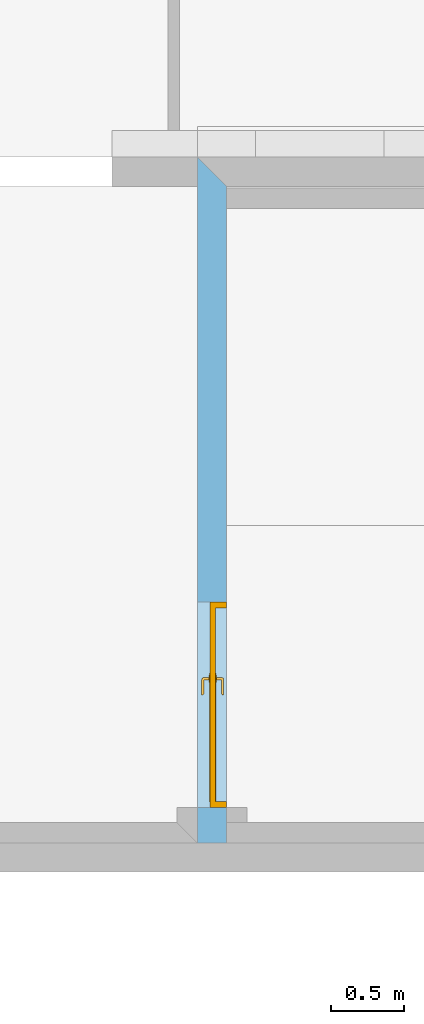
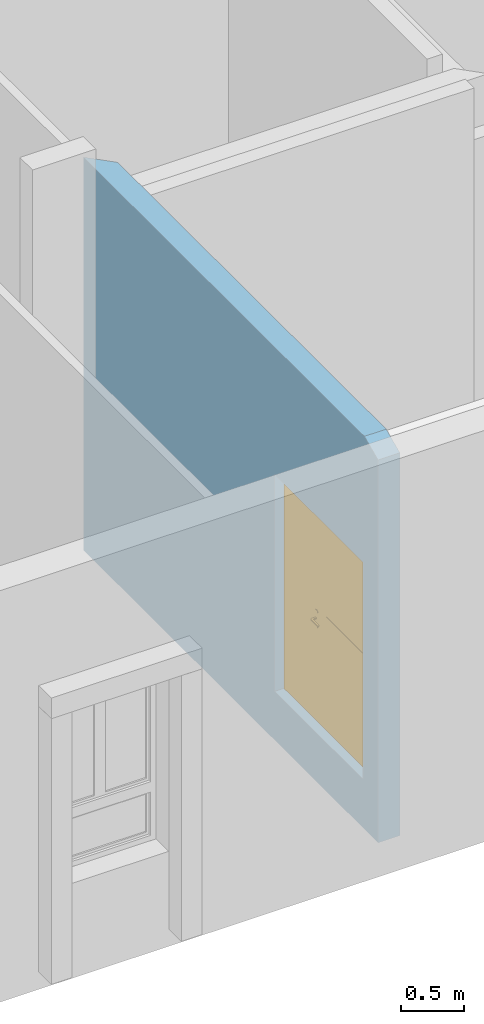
# One storey, part 17 of 34: 1 door, 1 opening, plus 1 element that does not belong to this part.
"""IFC2X3 building model written with IfcOpenShell, lengths in metres."""

from ifc_helpers import new_model, entity, si_unit, converted_unit, derived_unit, money_unit, direction, frame, origin_with_axes, origin_2d_with_axis, place, context, subcontext, project, spatial, polyline, rectangle, outline, extrude, clip, halfspace, faceted_brep, material, layer, layer_set, layer_usage, type_object, element, fill, save


model = new_model("IFC2X3")

# Units and contexts
model_context = context("Model", 3, precision=1e-05, world=origin_with_axes(), true_north=direction((0.0, 1.0)))
body_context = subcontext(model_context, "Body", "Model", "MODEL_VIEW")
ifc_project = project(units=[si_unit("LENGTHUNIT", "METRE"), si_unit("AREAUNIT", "SQUARE_METRE"), si_unit("VOLUMEUNIT", "CUBIC_METRE"), converted_unit("PLANEANGLEUNIT", "DEGREE", entity("IfcPlaneAngleMeasure", 0.0174532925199), si_unit("PLANEANGLEUNIT", "RADIAN"), dimensions=[0, 0, 0, 0, 0, 0, 0]), money_unit("CHF"), converted_unit("TIMEUNIT", "Year", entity("IfcTimeMeasure", 31556926.0), si_unit("TIMEUNIT", "SECOND"), dimensions=[0, 0, 1, 0, 0, 0, 0]), si_unit("MASSUNIT", "GRAM", prefix="KILO"), si_unit("THERMODYNAMICTEMPERATUREUNIT", "DEGREE_CELSIUS"), si_unit("LUMINOUSINTENSITYUNIT", "LUMEN"), si_unit("ENERGYUNIT", "JOULE", prefix="MEGA"), derived_unit("THERMALCONDUCTANCEUNIT", [(si_unit("POWERUNIT", "WATT"), 1), (si_unit("LENGTHUNIT", "METRE"), -1), (si_unit("THERMODYNAMICTEMPERATUREUNIT", "KELVIN"), -1)]), derived_unit("SPECIFICHEATCAPACITYUNIT", [(si_unit("ENERGYUNIT", "JOULE"), 1), (si_unit("MASSUNIT", "GRAM", prefix="KILO"), -1), (si_unit("THERMODYNAMICTEMPERATUREUNIT", "KELVIN"), -1)]), derived_unit("MASSDENSITYUNIT", [(si_unit("MASSUNIT", "GRAM", prefix="KILO"), 1), (si_unit("VOLUMEUNIT", "CUBIC_METRE"), -1)])], contexts=[model_context])

# Site, building, storey
site_placement = place(None, origin_with_axes())
site = spatial("IfcSite", under=ifc_project, at=site_placement, Name="Site", CompositionType="ELEMENT")
building_placement = place(site_placement, origin_with_axes())
building = spatial("IfcBuilding", under=site, at=building_placement, Name="Bâtiment", CompositionType="ELEMENT")
storey_placement = place(building_placement, origin_with_axes())
storey = spatial("IfcBuildingStorey", under=building, at=storey_placement, Name="RDC", CompositionType="ELEMENT", Elevation=-5.32907e-15)

# Wall, opening, door
ifc_material = material(Name="Diagonales 1167258944")
ifc_layer = layer(ifc_material, 0.2, ventilated="UNKNOWN")
ifc_layer_set = layer_set([ifc_layer], Name="Diagonales 1167258944 0.2")
ifc_layer_usage = layer_usage(ifc_layer_set, "AXIS2", "NEGATIVE", 0.0)
wall_type = type_object("IfcWallType", Name="Diagonales 1167258944 200", PredefinedType="NOTDEFINED")
wall_placement = place(storey_placement, frame((1692.16729001, 177.38004191, 0.0), z_axis=(0.0, 0.0, 1.0), x_axis=(0.0, 1.0, 0.0)))
wall = element("IfcWallStandardCase", 1, at=wall_placement, inside=storey, type_object=wall_type, material=ifc_layer_usage, Name="Mur-009", context=body_context, shape_type="Clipping", body=[
    clip(extrude(outline(polyline([(0.2, -0.2), (4.67, -0.2), (4.87, 0.0), (0.2, 0.0), (0.2, -0.2)])), origin_with_axes(), (0.0, 0.0, 1.0), 3.8), halfspace(frame((-1.35194463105, 0.0, 3.00400550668), z_axis=(0.410400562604, 0.0, -0.911905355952), x_axis=(0.0, 1.0, 0.0)), True)),
])
opening_placement = place(wall_placement, frame((1.14, 0.0, 0.47), z_axis=(0.0, 0.0, 1.0), x_axis=(1.0, 0.0, 0.0)))
opening = element("IfcOpeningElement", 2, at=opening_placement, cuts=wall, Name="Por-006", context=body_context, shape_type="SweptSolid", body=[
    extrude(rectangle(XDim=1.4, YDim=2.1, at=origin_2d_with_axis()), frame((0.0, 0.2, 1.05), z_axis=(0.0, 1.0, 0.0), x_axis=(-1.0, 0.0, 0.0)), (0.0, 0.0, -1.0), 0.6),
])
door_style = type_object("IfcDoorStyle", Name="Porte double asymétrique 25", ConstructionType="NOTDEFINED", OperationType="DOUBLE_DOOR_SINGLE_SWING", ParameterTakesPrecedence=False, Sizeable=False)
door_placement = place(opening_placement, frame((-0.7, 0.0, 0.0), z_axis=(0.0, 0.0, 1.0), x_axis=(1.0, 0.0, 0.0)))
door = element("IfcDoor", 3, at=door_placement, inside=storey, type_object=door_style, Name="Por-006", OverallHeight=2.1, OverallWidth=1.4, context=body_context, shape_type="Brep", body=[
    faceted_brep([(1.36, -0.125, 0.0), (1.36, -0.2, 0.0), (1.36, -0.2, 2.06), (1.36, -0.125, 2.06), (1.372, -0.125, 0.0), (1.372, -0.085, 0.0), (1.4, -0.085, 0.0), (1.4, -0.2, 0.0), (1.4, -0.2, 2.06), (1.372, -0.125, 2.06), (1.4, -0.085, 2.06), (1.372, -0.085, 2.06)], [[[0, 1, 2, 3]], [[4, 5, 6, 7, 1, 0]], [[1, 7, 8, 2]], [[9, 3, 2, 8, 10, 11]], [[9, 4, 0, 3]], [[11, 5, 4, 9]], [[11, 10, 6, 5]], [[6, 10, 8, 7]]]),
    faceted_brep([(0.028, -0.125, 2.06), (0.028, -0.085, 2.06), (0.0, -0.085, 2.06), (0.0, -0.2, 2.06), (0.04, -0.2, 2.06), (0.04, -0.125, 2.06), (0.028, -0.125, 0.0), (0.028, -0.085, 0.0), (0.0, -0.085, 0.0), (0.0, -0.2, 0.0), (0.04, -0.2, 0.0), (0.04, -0.125, 0.0)], [[[0, 1, 2, 3, 4, 5]], [[0, 6, 7, 1]], [[7, 8, 2, 1]], [[2, 8, 9, 3]], [[3, 9, 10, 4]], [[5, 4, 10, 11]], [[5, 11, 6, 0]], [[6, 11, 10, 9, 8, 7]]]),
    faceted_brep([(1.372, -0.085, 2.072), (0.028, -0.085, 2.072), (0.028, -0.085, 2.06), (0.0, -0.085, 2.06), (0.0, -0.085, 2.1), (1.4, -0.085, 2.1), (1.4, -0.085, 2.06), (1.372, -0.085, 2.06), (1.372, -0.125, 2.072), (0.028, -0.125, 2.072), (0.028, -0.125, 2.06), (0.04, -0.125, 2.06), (0.04, -0.2, 2.06), (0.0, -0.2, 2.06), (0.0, -0.2, 2.1), (1.4, -0.2, 2.1), (1.4, -0.2, 2.06), (1.372, -0.125, 2.06), (1.36, -0.2, 2.06), (1.36, -0.125, 2.06)], [[[0, 1, 2, 3, 4, 5, 6, 7]], [[0, 8, 9, 1]], [[1, 9, 10, 2]], [[10, 11, 12, 13, 3, 2]], [[4, 3, 13, 14]], [[5, 4, 14, 15]], [[6, 5, 15, 16]], [[17, 7, 6, 16, 18, 19]], [[7, 17, 8, 0]], [[10, 9, 8, 17, 19, 11]], [[19, 18, 12, 11]], [[12, 18, 16, 15, 14, 13]]]),
    faceted_brep([(0.903, -0.125, 0.93), (0.903, -0.13, 0.93), (0.901096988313, -0.13, 0.920432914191), (0.901096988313, -0.125, 0.920432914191), (0.903, -0.125, 1.055), (0.903, -0.13, 1.055), (0.901096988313, -0.13, 1.06456708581), (0.89567766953, -0.13, 1.07267766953), (0.887567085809, -0.13, 1.07809698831), (0.878, -0.13, 1.08), (0.868432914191, -0.13, 1.07809698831), (0.86032233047, -0.13, 1.07267766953), (0.854903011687, -0.13, 1.06456708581), (0.853, -0.13, 1.055), (0.853, -0.13, 0.93), (0.854903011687, -0.13, 0.920432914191), (0.86032233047, -0.13, 0.91232233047), (0.868432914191, -0.13, 0.906903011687), (0.878, -0.13, 0.905), (0.887567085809, -0.13, 0.906903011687), (0.89567766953, -0.13, 0.91232233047), (0.89567766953, -0.125, 0.91232233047), (0.887567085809, -0.125, 0.906903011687), (0.878, -0.125, 0.905), (0.868432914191, -0.125, 0.906903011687), (0.86032233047, -0.125, 0.91232233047), (0.854903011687, -0.125, 0.920432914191), (0.853, -0.125, 0.93), (0.853, -0.125, 1.055), (0.854903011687, -0.125, 1.06456708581), (0.86032233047, -0.125, 1.07267766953), (0.868432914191, -0.125, 1.07809698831), (0.878, -0.125, 1.08), (0.887567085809, -0.125, 1.07809698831), (0.89567766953, -0.125, 1.07267766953), (0.901096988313, -0.125, 1.06456708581)], [[[0, 1, 2, 3]], [[4, 5, 1, 0]], [[1, 5, 6, 7, 8, 9, 10, 11, 12, 13, 14, 15, 16, 17, 18, 19, 20, 2]], [[3, 2, 20, 21]], [[0, 3, 21, 22, 23, 24, 25, 26, 27, 28, 29, 30, 31, 32, 33, 34, 35, 4]], [[35, 6, 5, 4]], [[34, 7, 6, 35]], [[33, 8, 7, 34]], [[32, 9, 8, 33]], [[31, 10, 9, 32]], [[30, 11, 10, 31]], [[29, 12, 11, 30]], [[28, 13, 12, 29]], [[27, 14, 13, 28]], [[26, 15, 14, 27]], [[25, 16, 15, 26]], [[24, 17, 16, 25]], [[23, 18, 17, 24]], [[22, 19, 18, 23]], [[21, 20, 19, 22]]]),
    faceted_brep([(0.8705, -0.13, 1.005), (0.8705, -0.13, 0.995), (0.8705, -0.16, 0.995), (0.8705, -0.16, 1.005), (0.8855, -0.13, 1.005), (0.8855, -0.13, 0.995), (0.8855, -0.167, 0.995), (0.884510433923, -0.171974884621, 0.995), (0.881692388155, -0.176192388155, 0.995), (0.877474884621, -0.179010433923, 0.995), (0.8725, -0.18, 0.995), (0.7655, -0.18, 0.995), (0.7655, -0.178, 0.995), (0.766489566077, -0.173025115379, 0.995), (0.769307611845, -0.168807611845, 0.995), (0.773525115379, -0.165989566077, 0.995), (0.7785, -0.165, 0.995), (0.8655, -0.165, 0.995), (0.867413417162, -0.164619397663, 0.995), (0.869035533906, -0.163535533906, 0.995), (0.870119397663, -0.161913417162, 0.995), (0.870119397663, -0.161913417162, 1.005), (0.869035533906, -0.163535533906, 1.005), (0.867413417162, -0.164619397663, 1.005), (0.8655, -0.165, 1.005), (0.7785, -0.165, 1.005), (0.773525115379, -0.165989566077, 1.005), (0.769307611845, -0.168807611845, 1.005), (0.766489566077, -0.173025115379, 1.005), (0.7655, -0.178, 1.005), (0.7655, -0.18, 1.005), (0.8725, -0.18, 1.005), (0.877474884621, -0.179010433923, 1.005), (0.881692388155, -0.176192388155, 1.005), (0.884510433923, -0.171974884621, 1.005), (0.8855, -0.167, 1.005)], [[[0, 1, 2, 3]], [[4, 5, 1, 0]], [[1, 5, 6, 7, 8, 9, 10, 11, 12, 13, 14, 15, 16, 17, 18, 19, 20, 2]], [[3, 2, 20, 21]], [[0, 3, 21, 22, 23, 24, 25, 26, 27, 28, 29, 30, 31, 32, 33, 34, 35, 4]], [[35, 6, 5, 4]], [[34, 7, 6, 35]], [[33, 8, 7, 34]], [[32, 9, 8, 33]], [[31, 10, 9, 32]], [[30, 11, 10, 31]], [[29, 12, 11, 30]], [[28, 13, 12, 29]], [[27, 14, 13, 28]], [[26, 15, 14, 27]], [[25, 16, 15, 26]], [[24, 17, 16, 25]], [[23, 18, 17, 24]], [[22, 19, 18, 23]], [[21, 20, 19, 22]]]),
    faceted_brep([(0.903, -0.085, 0.93), (0.901096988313, -0.085, 0.920432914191), (0.901096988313, -0.08, 0.920432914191), (0.903, -0.08, 0.93), (0.903, -0.085, 1.055), (0.901096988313, -0.085, 1.06456708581), (0.89567766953, -0.085, 1.07267766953), (0.887567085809, -0.085, 1.07809698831), (0.878, -0.085, 1.08), (0.868432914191, -0.085, 1.07809698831), (0.86032233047, -0.085, 1.07267766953), (0.854903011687, -0.085, 1.06456708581), (0.853, -0.085, 1.055), (0.853, -0.085, 0.93), (0.854903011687, -0.085, 0.920432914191), (0.86032233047, -0.085, 0.91232233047), (0.868432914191, -0.085, 0.906903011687), (0.878, -0.085, 0.905), (0.887567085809, -0.085, 0.906903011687), (0.89567766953, -0.085, 0.91232233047), (0.89567766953, -0.08, 0.91232233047), (0.887567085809, -0.08, 0.906903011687), (0.878, -0.08, 0.905), (0.868432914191, -0.08, 0.906903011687), (0.86032233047, -0.08, 0.91232233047), (0.854903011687, -0.08, 0.920432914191), (0.853, -0.08, 0.93), (0.853, -0.08, 1.055), (0.854903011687, -0.08, 1.06456708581), (0.86032233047, -0.08, 1.07267766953), (0.868432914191, -0.08, 1.07809698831), (0.878, -0.08, 1.08), (0.887567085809, -0.08, 1.07809698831), (0.89567766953, -0.08, 1.07267766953), (0.901096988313, -0.08, 1.06456708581), (0.903, -0.08, 1.055)], [[[0, 1, 2, 3]], [[0, 4, 5, 6, 7, 8, 9, 10, 11, 12, 13, 14, 15, 16, 17, 18, 19, 1]], [[1, 19, 20, 2]], [[3, 2, 20, 21, 22, 23, 24, 25, 26, 27, 28, 29, 30, 31, 32, 33, 34, 35]], [[4, 0, 3, 35]], [[5, 4, 35, 34]], [[6, 5, 34, 33]], [[7, 6, 33, 32]], [[8, 7, 32, 31]], [[9, 8, 31, 30]], [[10, 9, 30, 29]], [[11, 10, 29, 28]], [[12, 11, 28, 27]], [[13, 12, 27, 26]], [[14, 13, 26, 25]], [[15, 14, 25, 24]], [[16, 15, 24, 23]], [[17, 16, 23, 22]], [[18, 17, 22, 21]], [[19, 18, 21, 20]]]),
    faceted_brep([(0.8705, -0.08, 1.005), (0.8705, -0.05, 1.005), (0.8705, -0.05, 0.995), (0.8705, -0.08, 0.995), (0.8855, -0.08, 1.005), (0.8855, -0.043, 1.005), (0.884510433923, -0.0380251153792, 1.005), (0.881692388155, -0.0338076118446, 1.005), (0.877474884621, -0.0309895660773, 1.005), (0.8725, -0.03, 1.005), (0.7655, -0.03, 1.005), (0.7655, -0.032, 1.005), (0.766489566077, -0.0369748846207, 1.005), (0.769307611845, -0.0411923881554, 1.005), (0.773525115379, -0.0440104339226, 1.005), (0.7785, -0.045, 1.005), (0.8655, -0.045, 1.005), (0.867413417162, -0.0453806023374, 1.005), (0.869035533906, -0.0464644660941, 1.005), (0.870119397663, -0.0480865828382, 1.005), (0.870119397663, -0.0480865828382, 0.995), (0.869035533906, -0.0464644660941, 0.995), (0.867413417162, -0.0453806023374, 0.995), (0.8655, -0.045, 0.995), (0.7785, -0.045, 0.995), (0.773525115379, -0.0440104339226, 0.995), (0.769307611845, -0.0411923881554, 0.995), (0.766489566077, -0.0369748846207, 0.995), (0.7655, -0.032, 0.995), (0.7655, -0.03, 0.995), (0.8725, -0.03, 0.995), (0.877474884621, -0.0309895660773, 0.995), (0.881692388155, -0.0338076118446, 0.995), (0.884510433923, -0.0380251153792, 0.995), (0.8855, -0.043, 0.995), (0.8855, -0.08, 0.995)], [[[0, 1, 2, 3]], [[0, 4, 5, 6, 7, 8, 9, 10, 11, 12, 13, 14, 15, 16, 17, 18, 19, 1]], [[1, 19, 20, 2]], [[3, 2, 20, 21, 22, 23, 24, 25, 26, 27, 28, 29, 30, 31, 32, 33, 34, 35]], [[4, 0, 3, 35]], [[5, 4, 35, 34]], [[6, 5, 34, 33]], [[7, 6, 33, 32]], [[8, 7, 32, 31]], [[9, 8, 31, 30]], [[10, 9, 30, 29]], [[11, 10, 29, 28]], [[12, 11, 28, 27]], [[13, 12, 27, 26]], [[14, 13, 26, 25]], [[15, 14, 25, 24]], [[16, 15, 24, 23]], [[17, 16, 23, 22]], [[18, 17, 22, 21]], [[19, 18, 21, 20]]]),
    faceted_brep([(0.038, -0.127, 0.01), (0.038, -0.125, 0.01), (0.918, -0.125, 0.01), (0.918, -0.127, 0.01), (0.038, -0.127, 1.1), (0.038, -0.125, 1.1), (0.918, -0.125, 1.1), (0.918, -0.127, 1.1)], [[[0, 1, 2, 3]], [[4, 5, 1, 0]], [[1, 5, 6, 2]], [[3, 2, 6, 7]], [[0, 3, 7, 4]], [[7, 6, 5, 4]]]),
    faceted_brep([(0.038, -0.085, 0.01), (0.038, -0.083, 0.01), (0.918, -0.083, 0.01), (0.918, -0.085, 0.01), (0.038, -0.085, 1.1), (0.038, -0.083, 1.1), (0.918, -0.083, 1.1), (0.918, -0.085, 1.1)], [[[0, 1, 2, 3]], [[4, 5, 1, 0]], [[1, 5, 6, 2]], [[3, 2, 6, 7]], [[0, 3, 7, 4]], [[7, 6, 5, 4]]]),
    faceted_brep([(0.028, -0.085, 0.0), (0.928, -0.085, 0.0), (0.928, -0.125, 0.0), (0.028, -0.125, 0.0), (0.028, -0.085, 2.072), (0.928, -0.085, 2.072), (0.928, -0.125, 2.072), (0.028, -0.125, 2.072)], [[[0, 1, 2, 3]], [[0, 4, 5, 1]], [[1, 5, 6, 2]], [[3, 2, 6, 7]], [[4, 0, 3, 7]], [[5, 4, 7, 6]]]),
    faceted_brep([(1.372, -0.085, 0.0), (1.372, -0.125, 0.0), (0.928, -0.125, 0.0), (0.928, -0.085, 0.0), (1.372, -0.085, 2.072), (1.372, -0.125, 2.072), (0.928, -0.125, 2.072), (0.928, -0.085, 2.072)], [[[0, 1, 2, 3]], [[4, 5, 1, 0]], [[1, 5, 6, 2]], [[3, 2, 6, 7]], [[0, 3, 7, 4]], [[7, 6, 5, 4]]]),
])
fill(opening, door)

save(model, "model.ifc")
